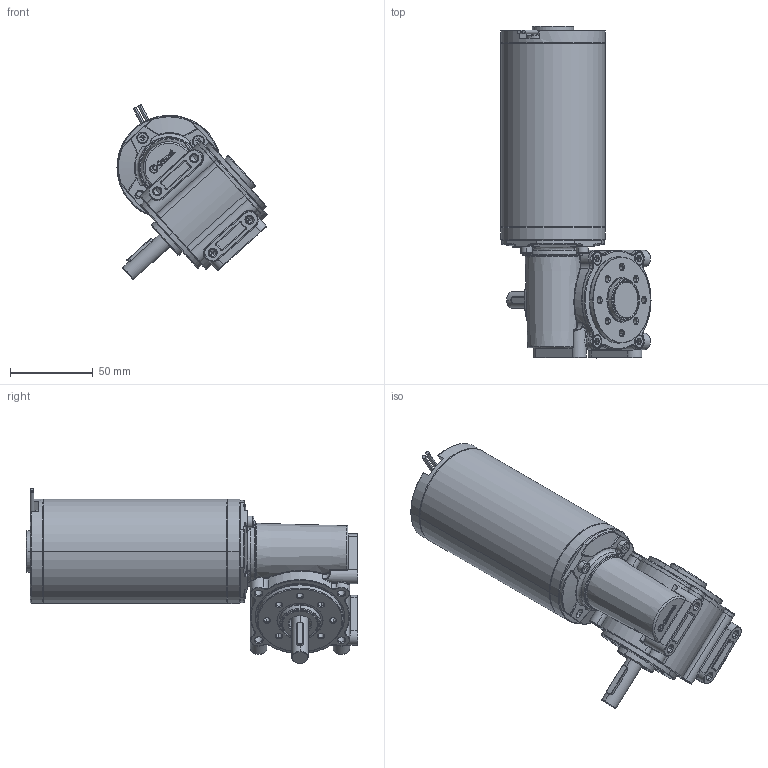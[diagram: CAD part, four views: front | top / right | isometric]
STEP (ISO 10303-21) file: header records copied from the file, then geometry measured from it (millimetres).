
FILE_DESCRIPTION((''),'2;1');
FILE_NAME('898910','2011-10-04T',('ALECMA1'),('CROUZET-AUTOMATISMES'),'PRO/ENGINEER BY PARAMETRIC TECHNOLOGY CORPORATION, 2009090','PRO/ENGINEER BY PARAMETRIC TECHNOLOGY CORPORATION, 2009090','');
FILE_SCHEMA(('CONFIG_CONTROL_DESIGN'));
Length unit declared in the file: millimetre
Products named in the file (1): 898910
Bounding box: 90.69 x 200.6 x 105.68 mm (x, y, z)
Volume: 282348.4 mm3; surface area: 135723.4 mm2
Topology: 34 solids, 35 shells, 3722 faces, 9641 edges, 6029 vertices
Faces by surface type: plane 2072, cylinder 600, torus 473, cone 244, bspline 190, sphere 101, extrusion 42
Entity records: 128037 total; most frequent: CARTESIAN_POINT 38373, ORIENTED_EDGE 18950, DIRECTION 18165, EDGE_CURVE 9475, VECTOR 6299, LINE 6257, VERTEX_POINT 6029, AXIS2_PLACEMENT_3D 5933
